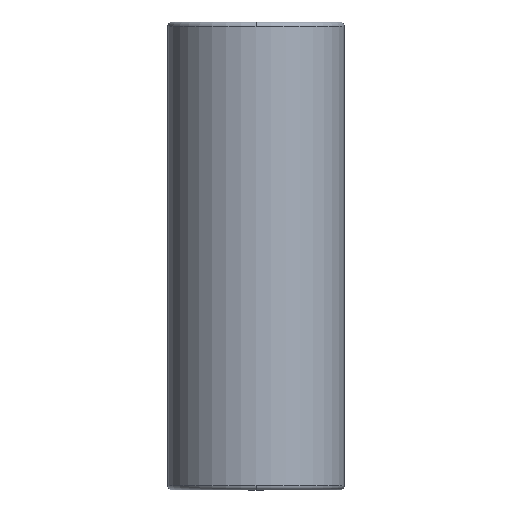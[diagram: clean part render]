
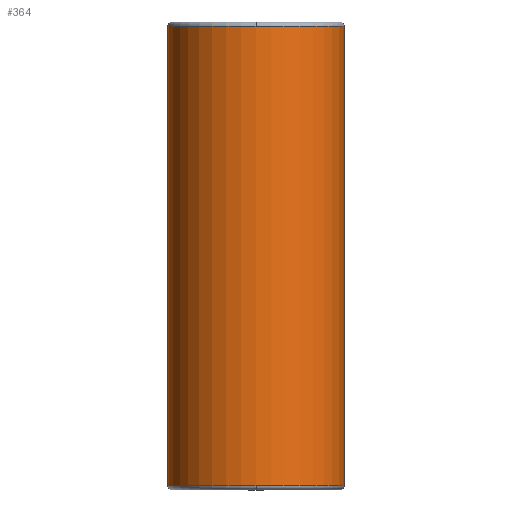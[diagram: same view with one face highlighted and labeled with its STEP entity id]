
A CAD part, front view. The second image highlights one B-rep face of the part: STEP entity #364.
In plain terms, the highlighted cylindrical face has radius 40.492 mm (diameter 80.984 mm), a partial arc.
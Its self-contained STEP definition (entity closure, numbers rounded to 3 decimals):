
#269=CARTESIAN_POINT('',(0.0,-40.492,213.));
#270=VERTEX_POINT('',#269);
#296=CARTESIAN_POINT('',(-40.492,0.,213.));
#297=VERTEX_POINT('',#296);
#305=CARTESIAN_POINT('',(0.0,0.,213.));
#306=DIRECTION('',(0.0,0.0,1.0));
#307=DIRECTION('',(1.0,0.0,0.0));
#308=AXIS2_PLACEMENT_3D('',#305,#306,#307);
#309=CIRCLE('',#308,40.492);
#310=EDGE_CURVE('',#297,#270,#309,.T.);
#315=CARTESIAN_POINT('',(0.0,0.,107.5));
#316=DIRECTION('',(0.0,0.,1.0));
#317=DIRECTION('',(1.0,0.0,0.0));
#318=AXIS2_PLACEMENT_3D('',#315,#316,#317);
#319=CYLINDRICAL_SURFACE('',#318,40.492);
#320=CARTESIAN_POINT('',(40.492,0.,213.));
#321=VERTEX_POINT('',#320);
#322=CARTESIAN_POINT('',(40.492,0.,2.));
#323=VERTEX_POINT('',#322);
#324=CARTESIAN_POINT('',(40.492,0.,213.));
#325=DIRECTION('',(0.0,0.0,-1.0));
#326=VECTOR('',#325,211.);
#327=LINE('',#324,#326);
#328=EDGE_CURVE('',#321,#323,#327,.T.);
#329=ORIENTED_EDGE('',*,*,#328,.F.);
#330=CARTESIAN_POINT('',(0.0,0.,213.));
#331=DIRECTION('',(0.0,0.0,1.0));
#332=DIRECTION('',(1.0,0.0,0.0));
#333=AXIS2_PLACEMENT_3D('',#330,#331,#332);
#334=CIRCLE('',#333,40.492);
#335=EDGE_CURVE('',#270,#321,#334,.T.);
#336=ORIENTED_EDGE('',*,*,#335,.F.);
#337=ORIENTED_EDGE('',*,*,#310,.F.);
#338=CARTESIAN_POINT('',(-40.492,0.,2.0));
#339=VERTEX_POINT('',#338);
#340=CARTESIAN_POINT('',(-40.492,0.,213.));
#341=DIRECTION('',(0.0,0.0,-1.0));
#342=VECTOR('',#341,211.);
#343=LINE('',#340,#342);
#344=EDGE_CURVE('',#297,#339,#343,.T.);
#345=ORIENTED_EDGE('',*,*,#344,.T.);
#346=CARTESIAN_POINT('',(0.0,-40.492,2.));
#347=VERTEX_POINT('',#346);
#348=CARTESIAN_POINT('',(0.0,0.,2.0));
#349=DIRECTION('',(0.0,0.0,1.0));
#350=DIRECTION('',(1.0,0.0,0.0));
#351=AXIS2_PLACEMENT_3D('',#348,#349,#350);
#352=CIRCLE('',#351,40.492);
#353=EDGE_CURVE('',#339,#347,#352,.T.);
#354=ORIENTED_EDGE('',*,*,#353,.T.);
#355=CARTESIAN_POINT('',(0.0,0.,2.0));
#356=DIRECTION('',(0.0,0.0,1.0));
#357=DIRECTION('',(1.0,0.0,0.0));
#358=AXIS2_PLACEMENT_3D('',#355,#356,#357);
#359=CIRCLE('',#358,40.492);
#360=EDGE_CURVE('',#347,#323,#359,.T.);
#361=ORIENTED_EDGE('',*,*,#360,.T.);
#362=EDGE_LOOP('',(#329,#336,#337,#345,#354,#361));
#363=FACE_OUTER_BOUND('',#362,.T.);
#364=ADVANCED_FACE('',(#363),#319,.T.);
